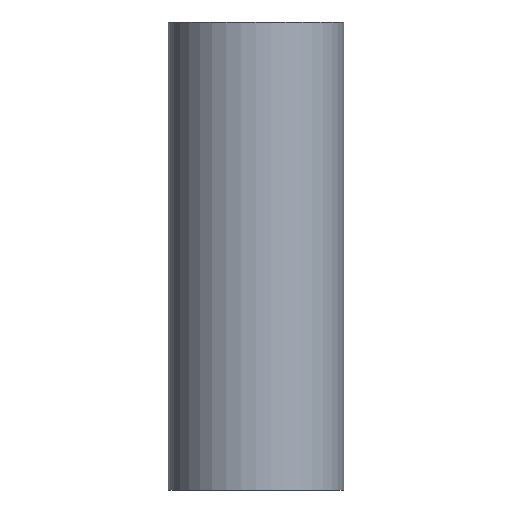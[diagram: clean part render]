
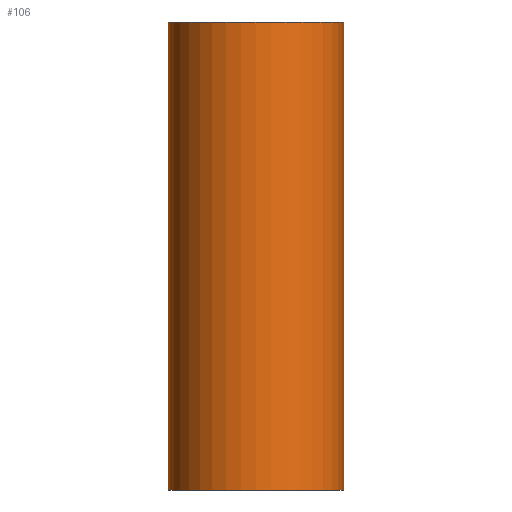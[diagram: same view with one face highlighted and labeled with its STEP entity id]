
A CAD part, left-side view. The second image highlights one B-rep face of the part: STEP entity #106.
In plain terms, the highlighted cylindrical face has radius 157.5 mm (diameter 315 mm), a full revolution.
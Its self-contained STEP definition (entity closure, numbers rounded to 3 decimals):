
#23=FACE_BOUND('',#47,.T.);
#24=FACE_BOUND('',#48,.T.);
#27=B_SPLINE_CURVE_WITH_KNOTS('',3,(#293,#294,#295,#296,#297,#298,#299,
#300,#301,#302,#303,#304,#305,#306,#307,#308,#309,#310,#311,#312,#313,#314,
#315,#316,#317,#318,#319,#320,#321,#322,#323,#324,#325,#326,#327,#328,#329,
#330,#331,#332,#333,#334,#335,#336,#337,#338,#339,#340,#341,#342,#343,#344,
#345,#346,#347,#348,#349,#350,#351,#352,#353,#354,#355,#356,#357,#358,#359,
#360,#361,#362,#363,#364,#365,#366,#367,#368,#369,#370,#371,#372,#373,#374,
#375,#376,#377,#378,#379,#380,#381,#382,#383,#384,#385,#386,#387,#388,#389,
#390),.UNSPECIFIED.,.T.,.F.,(4,2,2,2,2,2,2,2,2,2,2,2,2,2,2,2,2,2,2,2,2,
2,2,2,2,2,2,2,2,2,2,2,2,2,2,2,2,2,2,2,2,2,2,2,2,2,2,2,4),(0.,1.974,
3.949,7.897,11.846,15.795,19.815,
21.826,23.836,24.932,26.029,27.125,
28.221,29.318,30.414,31.51,32.607,
34.617,36.627,40.648,44.596,48.545,
52.494,54.468,56.442,57.742,59.043,
60.343,61.643,62.943,64.243,65.543,
66.843,69.248,71.653,74.058,76.463,
78.869,81.274,83.679,86.084,87.384,
88.684,89.984,91.284,92.584,93.884,
95.184,96.485),.UNSPECIFIED.);
#33=FACE_OUTER_BOUND('',#46,.T.);
#46=EDGE_LOOP('',(#84));
#47=EDGE_LOOP('',(#85));
#48=EDGE_LOOP('',(#86));
#55=CIRCLE('',#137,157.5);
#56=CIRCLE('',#139,157.5);
#62=VERTEX_POINT('',#292);
#63=VERTEX_POINT('',#393);
#64=VERTEX_POINT('',#396);
#70=EDGE_CURVE('',#62,#62,#27,.T.);
#71=EDGE_CURVE('',#63,#63,#55,.T.);
#72=EDGE_CURVE('',#64,#64,#56,.T.);
#84=ORIENTED_EDGE('',*,*,#71,.T.);
#85=ORIENTED_EDGE('',*,*,#70,.T.);
#86=ORIENTED_EDGE('',*,*,#72,.F.);
#92=CYLINDRICAL_SURFACE('',#138,157.5);
#106=ADVANCED_FACE('',(#33,#23,#24),#92,.T.);
#137=AXIS2_PLACEMENT_3D('',#394,#161,#162);
#138=AXIS2_PLACEMENT_3D('',#395,#163,#164);
#139=AXIS2_PLACEMENT_3D('',#397,#165,#166);
#161=DIRECTION('center_axis',(0.,0.,-1.));
#162=DIRECTION('ref_axis',(1.,0.,0.));
#163=DIRECTION('center_axis',(0.,0.,-1.));
#164=DIRECTION('ref_axis',(-1.,0.,0.));
#165=DIRECTION('center_axis',(0.,0.,-1.));
#166=DIRECTION('ref_axis',(1.,0.,0.));
#292=CARTESIAN_POINT('',(95.819,-125.,375.819));
#293=CARTESIAN_POINT('Ctrl Pts',(95.819,-125.,375.819));
#294=CARTESIAN_POINT('Ctrl Pts',(95.819,-125.,382.4));
#295=CARTESIAN_POINT('Ctrl Pts',(96.157,-124.742,389.059));
#296=CARTESIAN_POINT('Ctrl Pts',(97.358,-123.808,402.48));
#297=CARTESIAN_POINT('Ctrl Pts',(98.22,-123.13,409.242));
#298=CARTESIAN_POINT('Ctrl Pts',(101.399,-120.549,429.597));
#299=CARTESIAN_POINT('Ctrl Pts',(104.298,-118.103,443.26));
#300=CARTESIAN_POINT('Ctrl Pts',(110.86,-111.966,470.234));
#301=CARTESIAN_POINT('Ctrl Pts',(114.524,-108.271,483.535));
#302=CARTESIAN_POINT('Ctrl Pts',(122.024,-99.743,509.127));
#303=CARTESIAN_POINT('Ctrl Pts',(125.862,-94.906,521.417));
#304=CARTESIAN_POINT('Ctrl Pts',(133.313,-84.128,544.524));
#305=CARTESIAN_POINT('Ctrl Pts',(137.462,-77.395,556.944));
#306=CARTESIAN_POINT('Ctrl Pts',(143.353,-65.391,574.166));
#307=CARTESIAN_POINT('Ctrl Pts',(145.261,-61.074,579.674));
#308=CARTESIAN_POINT('Ctrl Pts',(148.803,-51.848,589.822));
#309=CARTESIAN_POINT('Ctrl Pts',(150.439,-46.939,594.462));
#310=CARTESIAN_POINT('Ctrl Pts',(152.637,-38.946,600.668));
#311=CARTESIAN_POINT('Ctrl Pts',(153.398,-35.867,602.81));
#312=CARTESIAN_POINT('Ctrl Pts',(154.785,-29.31,606.7));
#313=CARTESIAN_POINT('Ctrl Pts',(155.41,-25.831,608.448));
#314=CARTESIAN_POINT('Ctrl Pts',(156.436,-18.633,611.315));
#315=CARTESIAN_POINT('Ctrl Pts',(156.838,-14.906,612.434));
#316=CARTESIAN_POINT('Ctrl Pts',(157.37,-7.417,613.915));
#317=CARTESIAN_POINT('Ctrl Pts',(157.5,-3.654,614.277));
#318=CARTESIAN_POINT('Ctrl Pts',(157.5,3.654,614.277));
#319=CARTESIAN_POINT('Ctrl Pts',(157.37,7.417,613.915));
#320=CARTESIAN_POINT('Ctrl Pts',(156.838,14.906,612.434));
#321=CARTESIAN_POINT('Ctrl Pts',(156.436,18.633,611.315));
#322=CARTESIAN_POINT('Ctrl Pts',(155.41,25.831,608.448));
#323=CARTESIAN_POINT('Ctrl Pts',(154.785,29.31,606.7));
#324=CARTESIAN_POINT('Ctrl Pts',(153.398,35.867,602.81));
#325=CARTESIAN_POINT('Ctrl Pts',(152.637,38.946,600.668));
#326=CARTESIAN_POINT('Ctrl Pts',(150.439,46.939,594.462));
#327=CARTESIAN_POINT('Ctrl Pts',(148.803,51.848,589.822));
#328=CARTESIAN_POINT('Ctrl Pts',(145.261,61.074,579.674));
#329=CARTESIAN_POINT('Ctrl Pts',(143.353,65.391,574.166));
#330=CARTESIAN_POINT('Ctrl Pts',(137.462,77.395,556.944));
#331=CARTESIAN_POINT('Ctrl Pts',(133.313,84.128,544.524));
#332=CARTESIAN_POINT('Ctrl Pts',(125.862,94.906,521.417));
#333=CARTESIAN_POINT('Ctrl Pts',(122.024,99.743,509.127));
#334=CARTESIAN_POINT('Ctrl Pts',(114.524,108.271,483.535));
#335=CARTESIAN_POINT('Ctrl Pts',(110.86,111.966,470.234));
#336=CARTESIAN_POINT('Ctrl Pts',(104.298,118.103,443.26));
#337=CARTESIAN_POINT('Ctrl Pts',(101.399,120.549,429.597));
#338=CARTESIAN_POINT('Ctrl Pts',(98.22,123.13,409.242));
#339=CARTESIAN_POINT('Ctrl Pts',(97.358,123.808,402.48));
#340=CARTESIAN_POINT('Ctrl Pts',(96.157,124.742,389.059));
#341=CARTESIAN_POINT('Ctrl Pts',(95.819,125.,382.4));
#342=CARTESIAN_POINT('Ctrl Pts',(95.819,125.,371.485));
#343=CARTESIAN_POINT('Ctrl Pts',(95.967,124.887,367.064));
#344=CARTESIAN_POINT('Ctrl Pts',(96.645,124.363,358.191));
#345=CARTESIAN_POINT('Ctrl Pts',(97.176,123.951,353.74));
#346=CARTESIAN_POINT('Ctrl Pts',(98.679,122.759,344.947));
#347=CARTESIAN_POINT('Ctrl Pts',(99.651,121.977,340.604));
#348=CARTESIAN_POINT('Ctrl Pts',(102.039,119.986,332.16));
#349=CARTESIAN_POINT('Ctrl Pts',(103.455,118.777,328.059));
#350=CARTESIAN_POINT('Ctrl Pts',(106.662,115.906,320.205));
#351=CARTESIAN_POINT('Ctrl Pts',(108.459,114.238,316.438));
#352=CARTESIAN_POINT('Ctrl Pts',(112.323,110.44,309.297));
#353=CARTESIAN_POINT('Ctrl Pts',(114.39,108.31,305.922));
#354=CARTESIAN_POINT('Ctrl Pts',(118.646,103.631,299.599));
#355=CARTESIAN_POINT('Ctrl Pts',(120.835,101.08,296.65));
#356=CARTESIAN_POINT('Ctrl Pts',(125.191,95.633,291.184));
#357=CARTESIAN_POINT('Ctrl Pts',(127.356,92.737,288.666));
#358=CARTESIAN_POINT('Ctrl Pts',(133.313,84.143,282.094));
#359=CARTESIAN_POINT('Ctrl Pts',(137.149,77.821,278.303));
#360=CARTESIAN_POINT('Ctrl Pts',(144.109,64.02,271.816));
#361=CARTESIAN_POINT('Ctrl Pts',(147.231,56.541,269.116));
#362=CARTESIAN_POINT('Ctrl Pts',(152.316,40.909,264.844));
#363=CARTESIAN_POINT('Ctrl Pts',(154.284,32.744,263.268));
#364=CARTESIAN_POINT('Ctrl Pts',(156.876,16.297,261.207));
#365=CARTESIAN_POINT('Ctrl Pts',(157.5,8.017,260.723));
#366=CARTESIAN_POINT('Ctrl Pts',(157.5,-8.017,260.723));
#367=CARTESIAN_POINT('Ctrl Pts',(156.876,-16.297,261.207));
#368=CARTESIAN_POINT('Ctrl Pts',(154.284,-32.744,263.268));
#369=CARTESIAN_POINT('Ctrl Pts',(152.316,-40.909,264.844));
#370=CARTESIAN_POINT('Ctrl Pts',(147.231,-56.541,269.116));
#371=CARTESIAN_POINT('Ctrl Pts',(144.109,-64.02,271.816));
#372=CARTESIAN_POINT('Ctrl Pts',(137.149,-77.821,278.303));
#373=CARTESIAN_POINT('Ctrl Pts',(133.313,-84.143,282.094));
#374=CARTESIAN_POINT('Ctrl Pts',(127.356,-92.737,288.666));
#375=CARTESIAN_POINT('Ctrl Pts',(125.191,-95.633,291.184));
#376=CARTESIAN_POINT('Ctrl Pts',(120.835,-101.08,296.65));
#377=CARTESIAN_POINT('Ctrl Pts',(118.646,-103.631,299.599));
#378=CARTESIAN_POINT('Ctrl Pts',(114.39,-108.31,305.922));
#379=CARTESIAN_POINT('Ctrl Pts',(112.323,-110.44,309.297));
#380=CARTESIAN_POINT('Ctrl Pts',(108.459,-114.238,316.438));
#381=CARTESIAN_POINT('Ctrl Pts',(106.662,-115.906,320.205));
#382=CARTESIAN_POINT('Ctrl Pts',(103.455,-118.777,328.059));
#383=CARTESIAN_POINT('Ctrl Pts',(102.039,-119.986,332.16));
#384=CARTESIAN_POINT('Ctrl Pts',(99.651,-121.977,340.604));
#385=CARTESIAN_POINT('Ctrl Pts',(98.679,-122.759,344.947));
#386=CARTESIAN_POINT('Ctrl Pts',(97.176,-123.951,353.74));
#387=CARTESIAN_POINT('Ctrl Pts',(96.645,-124.363,358.191));
#388=CARTESIAN_POINT('Ctrl Pts',(95.967,-124.887,367.064));
#389=CARTESIAN_POINT('Ctrl Pts',(95.819,-125.,371.485));
#390=CARTESIAN_POINT('Ctrl Pts',(95.819,-125.,375.819));
#393=CARTESIAN_POINT('',(-157.5,0.,840.));
#394=CARTESIAN_POINT('Origin',(0.,0.,840.));
#395=CARTESIAN_POINT('Origin',(0.,0.,420.));
#396=CARTESIAN_POINT('',(-157.5,0.,0.));
#397=CARTESIAN_POINT('Origin',(0.,0.,0.));
